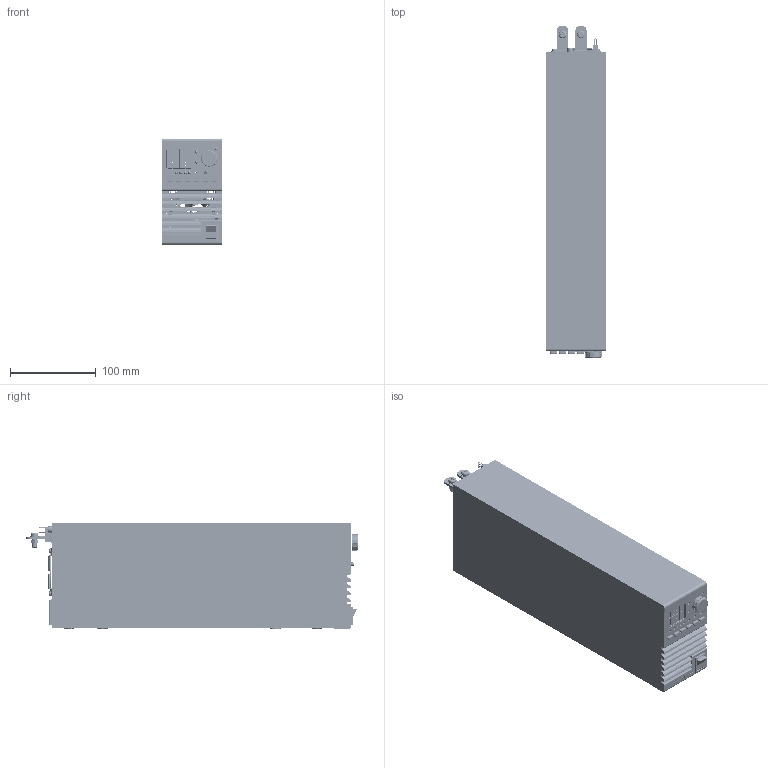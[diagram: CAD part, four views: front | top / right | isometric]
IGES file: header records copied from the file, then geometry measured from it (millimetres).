
Start section: SolidWorks IGES file using analytic representation for surfaces
Global section: file name: T:\IA548_IA549\SHLOMO\ZUP400.IGS; native system: SolidWorks 2009; preprocessor: SolidWorks 2009; author: george; date: 081130.185250; units: millimetre
Bounding box: 70 x 388.1 x 124.8 mm (x, y, z)
Surface area: 405406.1 mm2 (no closed solid volume)
Topology: 0 solids, 0 shells, 2894 faces, 32005 edges, 31988 vertices
Faces by surface type: bspline 1860, revolution 1034
